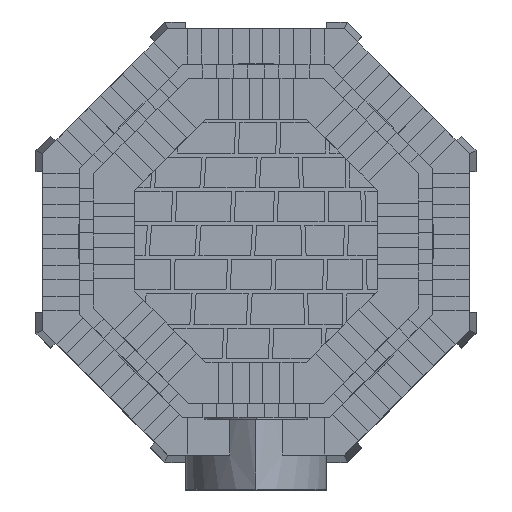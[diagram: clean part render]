
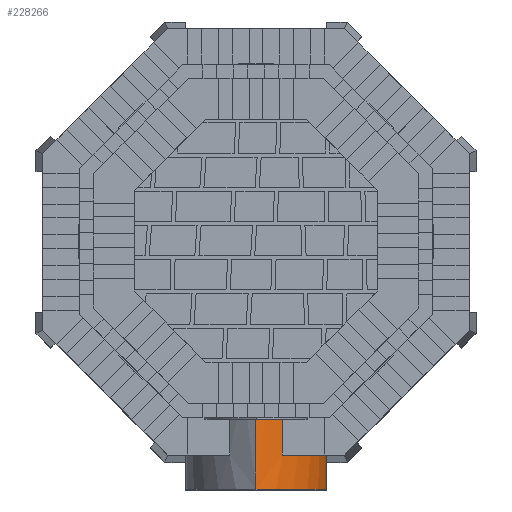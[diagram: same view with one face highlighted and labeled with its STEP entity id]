
A CAD part, top view. The second image highlights one B-rep face of the part: STEP entity #228266.
In plain terms, the highlighted cylindrical face has radius 20.657 mm (diameter 41.314 mm), a partial arc.
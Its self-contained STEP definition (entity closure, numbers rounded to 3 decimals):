
#1675=CYLINDRICAL_SURFACE('',#241350,20.657);
#2121=CIRCLE('',#240819,20.657);
#2218=CIRCLE('',#240958,20.657);
#2392=CIRCLE('',#241349,20.657);
#11699=FACE_OUTER_BOUND('',#24796,.T.);
#24796=EDGE_LOOP('',(#188302,#188303,#188304,#188305,#188306,#188307));
#50020=LINE('',#348231,#80741);
#50468=LINE('',#350179,#81189);
#50469=LINE('',#350180,#81190);
#80741=VECTOR('',#284932,10.);
#81189=VECTOR('',#286292,10.);
#81190=VECTOR('',#286293,10.);
#104220=VERTEX_POINT('',#347848);
#104221=VERTEX_POINT('',#347850);
#104390=VERTEX_POINT('',#348230);
#104496=VERTEX_POINT('',#348555);
#104497=VERTEX_POINT('',#348557);
#104934=VERTEX_POINT('',#350175);
#132859=EDGE_CURVE('',#104220,#104221,#2121,.T.);
#133043=EDGE_CURVE('',#104390,#104220,#50020,.T.);
#133164=EDGE_CURVE('',#104496,#104497,#2218,.T.);
#133831=EDGE_CURVE('',#104390,#104934,#2392,.T.);
#133833=EDGE_CURVE('',#104934,#104497,#50468,.T.);
#133834=EDGE_CURVE('',#104496,#104221,#50469,.T.);
#188302=ORIENTED_EDGE('',*,*,#133831,.T.);
#188303=ORIENTED_EDGE('',*,*,#133833,.T.);
#188304=ORIENTED_EDGE('',*,*,#133164,.F.);
#188305=ORIENTED_EDGE('',*,*,#133834,.T.);
#188306=ORIENTED_EDGE('',*,*,#132859,.F.);
#188307=ORIENTED_EDGE('',*,*,#133043,.F.);
#228266=ADVANCED_FACE('',(#11699),#1675,.T.);
#240819=AXIS2_PLACEMENT_3D('',#347851,#284645,#284646);
#240958=AXIS2_PLACEMENT_3D('',#348558,#285103,#285104);
#241349=AXIS2_PLACEMENT_3D('',#350176,#286287,#286288);
#241350=AXIS2_PLACEMENT_3D('',#350178,#286290,#286291);
#284645=DIRECTION('center_axis',(0.,-1.,0.));
#284646=DIRECTION('ref_axis',(1.,0.,0.));
#284932=DIRECTION('',(0.,-1.,0.));
#285103=DIRECTION('center_axis',(0.,1.,0.));
#285104=DIRECTION('ref_axis',(1.,0.,0.));
#286287=DIRECTION('center_axis',(0.,-1.,0.));
#286288=DIRECTION('ref_axis',(1.,0.,0.));
#286290=DIRECTION('center_axis',(0.,-1.,0.));
#286291=DIRECTION('ref_axis',(1.,0.,0.));
#286292=DIRECTION('',(0.,1.,0.));
#286293=DIRECTION('',(0.,-1.,0.));
#347848=CARTESIAN_POINT('',(10.328,-36.178,50.));
#347850=CARTESIAN_POINT('',(0.,-36.178,67.889));
#347851=CARTESIAN_POINT('Origin',(-10.328,-36.178,50.));
#348230=CARTESIAN_POINT('',(10.328,-31.178,50.));
#348231=CARTESIAN_POINT('',(10.328,-32.178,50.));
#348555=CARTESIAN_POINT('',(0.,-25.378,67.889));
#348557=CARTESIAN_POINT('',(3.874,-25.378,65.));
#348558=CARTESIAN_POINT('Origin',(-10.328,-25.378,50.));
#350175=CARTESIAN_POINT('',(3.874,-31.178,65.));
#350176=CARTESIAN_POINT('Origin',(-10.328,-31.178,50.));
#350178=CARTESIAN_POINT('Origin',(-10.328,-32.178,50.));
#350179=CARTESIAN_POINT('',(3.874,-32.178,65.));
#350180=CARTESIAN_POINT('',(0.,-32.178,67.889));
